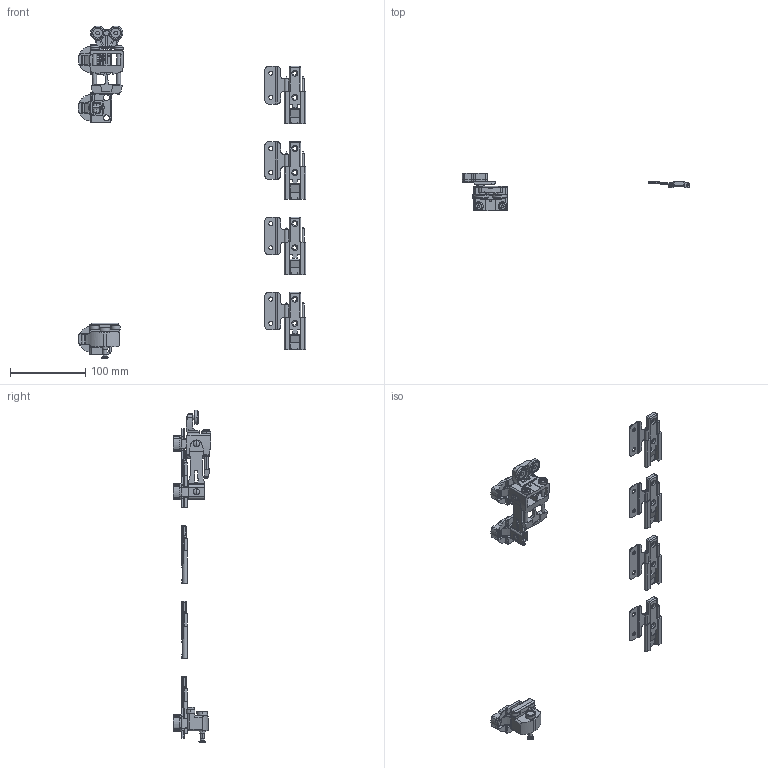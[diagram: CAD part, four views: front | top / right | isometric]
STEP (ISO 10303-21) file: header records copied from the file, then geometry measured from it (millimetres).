
FILE_DESCRIPTION( ( '' ), '1' );
FILE_NAME( 'D:/temp/hettich_stp/hettich/4_folding_sliding/4.4_folding_door/20kg_wl_770-wl_770_alu/wl_770_left/70968.stp', '2013-02-26T10:20:55', ( '' ), ( '' ), ' ', ' ', ' ' );
FILE_SCHEMA( ( 'automotive_design' ) );
Length unit declared in the file: millimetre
Products named in the file (10): 1; 2; 3; 4; 5; 6; 7; 8; 9; 10
Bounding box: 302.36 x 49.98 x 440.8 mm (x, y, z)
Volume: 118293.2 mm3; surface area: 87910.8 mm2
Topology: 10 solids, 10 shells, 1572 faces, 4562 edges, 2992 vertices
Faces by surface type: plane 923, cylinder 549, cone 58, torus 40, sphere 2
Entity records: 104036 total; most frequent: CARTESIAN_POINT 10728, STYLED_ITEM 9132, PRESENTATION_STYLE_ASSIGNMENT 9132, COLOUR_RGB 9132, ORIENTED_EDGE 9116, DIRECTION 8938, EDGE_CURVE 4558, CURVE_STYLE 4558
